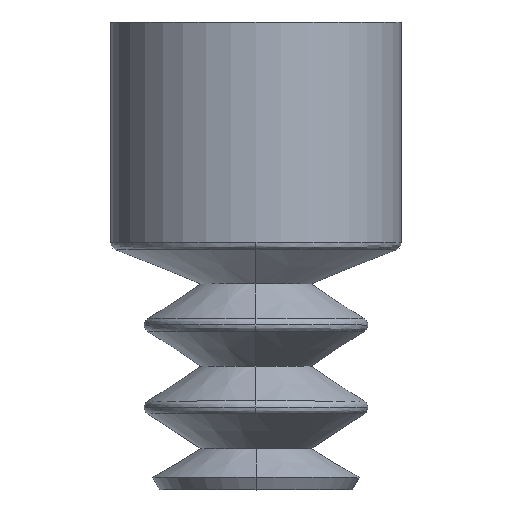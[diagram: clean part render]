
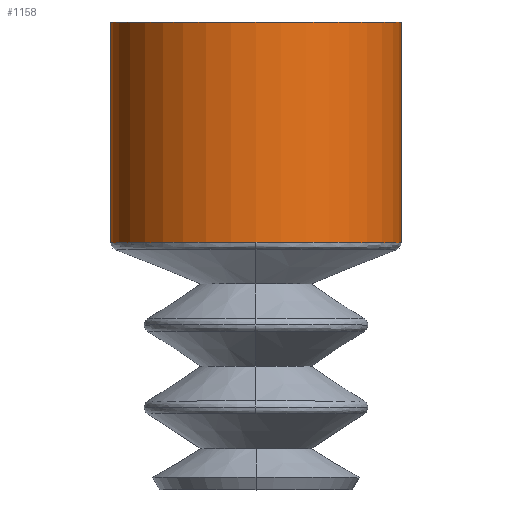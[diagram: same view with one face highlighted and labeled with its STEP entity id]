
A CAD part, top view. The second image highlights one B-rep face of the part: STEP entity #1158.
In plain terms, the highlighted cylindrical face has radius 4.35 mm (diameter 8.7 mm), a partial arc.
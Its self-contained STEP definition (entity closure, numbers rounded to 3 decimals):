
#35 = DIRECTION ( 'NONE',  ( 0., -1., 0. ) ) ;
#93 = VERTEX_POINT ( 'NONE', #952 ) ;
#101 = ORIENTED_EDGE ( 'NONE', *, *, #1255, .T. ) ;
#142 = DIRECTION ( 'NONE',  ( 0., -1., 0. ) ) ;
#182 = ORIENTED_EDGE ( 'NONE', *, *, #1226, .F. ) ;
#211 = DIRECTION ( 'NONE',  ( 1., 0., 0. ) ) ;
#214 = LINE ( 'NONE', #1065, #726 ) ;
#240 = AXIS2_PLACEMENT_3D ( 'NONE', #1195, #142, #211 ) ;
#272 = DIRECTION ( 'NONE',  ( 0., 1., 0. ) ) ;
#274 = CIRCLE ( 'NONE', #1246, 4.35 ) ;
#278 = CARTESIAN_POINT ( 'NONE',  ( 0., 0., 0. ) ) ;
#441 = CARTESIAN_POINT ( 'NONE',  ( 0., -6.6, 0. ) ) ;
#450 = CARTESIAN_POINT ( 'NONE',  ( -4.35, 0., 0. ) ) ;
#462 = CYLINDRICAL_SURFACE ( 'NONE', #711, 4.35 ) ;
#527 = CARTESIAN_POINT ( 'NONE',  ( 4.35, -6.6, 0. ) ) ;
#560 = EDGE_CURVE ( 'NONE', #1147, #561, #274, .T. ) ;
#561 = VERTEX_POINT ( 'NONE', #977 ) ;
#568 = ORIENTED_EDGE ( 'NONE', *, *, #1243, .F. ) ;
#602 = DIRECTION ( 'NONE',  ( 1., 0., 0. ) ) ;
#610 = CARTESIAN_POINT ( 'NONE',  ( 0., -6.6, 0. ) ) ;
#649 = EDGE_CURVE ( 'NONE', #1333, #93, #1493, .T. ) ;
#669 = AXIS2_PLACEMENT_3D ( 'NONE', #610, #35, #602 ) ;
#711 = AXIS2_PLACEMENT_3D ( 'NONE', #441, #1405, #1043 ) ;
#721 = DIRECTION ( 'NONE',  ( 0., 1., 0. ) ) ;
#726 = VECTOR ( 'NONE', #1084, 1000. ) ;
#808 = FACE_OUTER_BOUND ( 'NONE', #1354, .T. ) ;
#919 = VECTOR ( 'NONE', #272, 1000. ) ;
#944 = LINE ( 'NONE', #1312, #919 ) ;
#948 = VERTEX_POINT ( 'NONE', #527 ) ;
#952 = CARTESIAN_POINT ( 'NONE',  ( -4.35, -6.6, 0. ) ) ;
#977 = CARTESIAN_POINT ( 'NONE',  ( 4.35, 0., 0. ) ) ;
#1043 = DIRECTION ( 'NONE',  ( -1., 0., 0. ) ) ;
#1065 = CARTESIAN_POINT ( 'NONE',  ( -4.35, -6.6, 0. ) ) ;
#1084 = DIRECTION ( 'NONE',  ( 0., 1., 0. ) ) ;
#1147 = VERTEX_POINT ( 'NONE', #450 ) ;
#1158 = ADVANCED_FACE ( 'NONE', ( #808 ), #462, .T. ) ;
#1195 = CARTESIAN_POINT ( 'NONE',  ( 0., -6.6, 0. ) ) ;
#1226 = EDGE_CURVE ( 'NONE', #93, #1147, #214, .T. ) ;
#1243 = EDGE_CURVE ( 'NONE', #948, #1333, #1258, .T. ) ;
#1246 = AXIS2_PLACEMENT_3D ( 'NONE', #278, #721, #1454 ) ;
#1255 = EDGE_CURVE ( 'NONE', #948, #561, #944, .T. ) ;
#1258 = CIRCLE ( 'NONE', #669, 4.35 ) ;
#1283 = ORIENTED_EDGE ( 'NONE', *, *, #649, .F. ) ;
#1312 = CARTESIAN_POINT ( 'NONE',  ( 4.35, -6.6, 0. ) ) ;
#1333 = VERTEX_POINT ( 'NONE', #1342 ) ;
#1342 = CARTESIAN_POINT ( 'NONE',  ( 0., -6.6, 4.35 ) ) ;
#1350 = ORIENTED_EDGE ( 'NONE', *, *, #560, .F. ) ;
#1354 = EDGE_LOOP ( 'NONE', ( #568, #101, #1350, #182, #1283 ) ) ;
#1405 = DIRECTION ( 'NONE',  ( 0., 1., 0. ) ) ;
#1454 = DIRECTION ( 'NONE',  ( -1., 0., 0. ) ) ;
#1493 = CIRCLE ( 'NONE', #240, 4.35 ) ;
